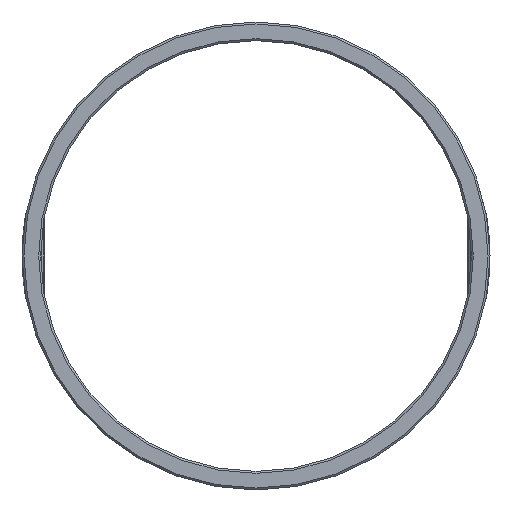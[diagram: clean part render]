
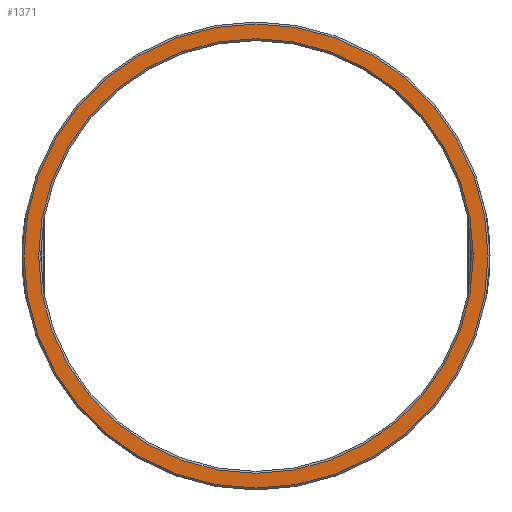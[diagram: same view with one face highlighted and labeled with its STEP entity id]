
A CAD part, left-side view. The second image highlights one B-rep face of the part: STEP entity #1371.
In plain terms, the highlighted planar face has unit normal (-1, 0, 0).
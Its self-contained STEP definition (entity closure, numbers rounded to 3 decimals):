
#1340=CARTESIAN_POINT('',(-17.375,11.1,0.));
#1341=VERTEX_POINT('',#1340);
#1342=CARTESIAN_POINT('',(-17.375,0.0,0.0));
#1343=DIRECTION('',(-1.0,0.0,0.0));
#1344=DIRECTION('',(0.0,-1.0,0.0));
#1345=AXIS2_PLACEMENT_3D('',#1342,#1343,#1344);
#1346=CIRCLE('',#1345,11.1);
#1347=EDGE_CURVE('',#1341,#1341,#1346,.T.);
#1352=CARTESIAN_POINT('',(-17.375,11.475,0.0));
#1353=DIRECTION('',(-1.0,0.0,0.0));
#1354=DIRECTION('',(0.0,0.0,1.0));
#1355=AXIS2_PLACEMENT_3D('',#1352,#1353,#1354);
#1356=PLANE('',#1355);
#1357=CARTESIAN_POINT('',(-17.375,11.85,0.));
#1358=VERTEX_POINT('',#1357);
#1359=CARTESIAN_POINT('',(-17.375,0.0,0.0));
#1360=DIRECTION('',(1.0,0.0,0.0));
#1361=DIRECTION('',(0.0,-1.0,0.0));
#1362=AXIS2_PLACEMENT_3D('',#1359,#1360,#1361);
#1363=CIRCLE('',#1362,11.85);
#1364=EDGE_CURVE('',#1358,#1358,#1363,.T.);
#1365=ORIENTED_EDGE('',*,*,#1364,.F.);
#1366=EDGE_LOOP('',(#1365));
#1367=FACE_OUTER_BOUND('',#1366,.T.);
#1368=ORIENTED_EDGE('',*,*,#1347,.F.);
#1369=EDGE_LOOP('',(#1368));
#1370=FACE_BOUND('',#1369,.T.);
#1371=ADVANCED_FACE('',(#1367,#1370),#1356,.T.);
